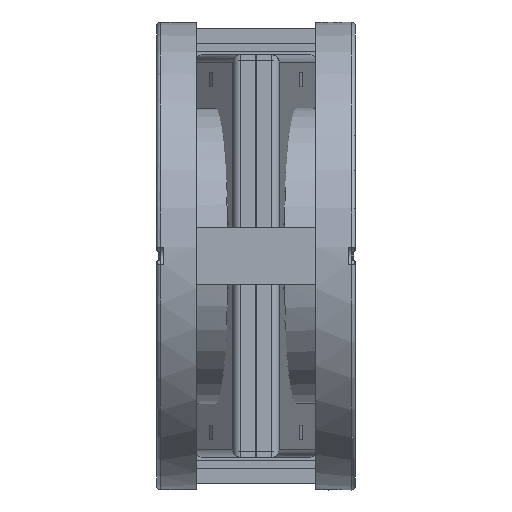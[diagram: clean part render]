
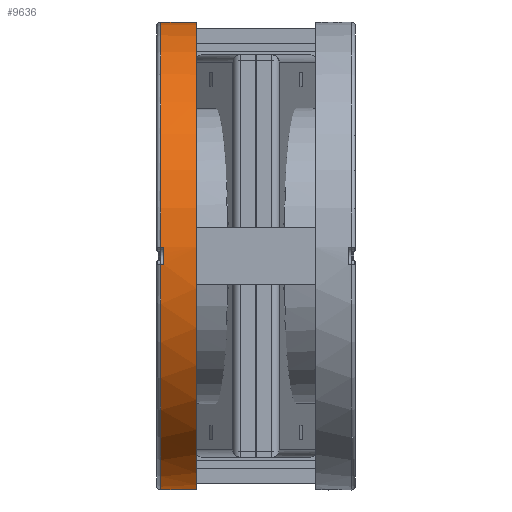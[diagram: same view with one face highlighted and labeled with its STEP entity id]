
A CAD part, front view. The second image highlights one B-rep face of the part: STEP entity #9636.
In plain terms, the highlighted cylindrical face has radius 82.4 mm (diameter 164.8 mm), a full revolution.
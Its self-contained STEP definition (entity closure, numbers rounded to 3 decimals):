
#3245=ELLIPSE('',#25306,82.715,82.4);
#4468=CYLINDRICAL_SURFACE('',#25307,82.4);
#6889=LINE('',#53155,#8507);
#6890=LINE('',#53160,#8508);
#6891=LINE('',#53164,#8509);
#6892=LINE('',#53168,#8510);
#8507=VECTOR('',#29844,1.);
#8508=VECTOR('',#29847,1.);
#8509=VECTOR('',#29850,1.);
#8510=VECTOR('',#29853,1.);
#9636=ADVANCED_FACE('',(#10775,#10776),#4468,.T.);
#10775=FACE_BOUND('',#12187,.T.);
#10776=FACE_BOUND('',#12188,.T.);
#12187=EDGE_LOOP('',(#17366,#17367,#17368,#17369,#17370,#17371,#17372,#17373));
#12188=EDGE_LOOP('',(#17374,#17375));
#17366=ORIENTED_EDGE('',*,*,#22740,.T.);
#17367=ORIENTED_EDGE('',*,*,#22741,.T.);
#17368=ORIENTED_EDGE('',*,*,#22742,.F.);
#17369=ORIENTED_EDGE('',*,*,#22743,.F.);
#17370=ORIENTED_EDGE('',*,*,#22744,.T.);
#17371=ORIENTED_EDGE('',*,*,#22745,.T.);
#17372=ORIENTED_EDGE('',*,*,#22746,.F.);
#17373=ORIENTED_EDGE('',*,*,#22747,.T.);
#17374=ORIENTED_EDGE('',*,*,#22748,.F.);
#17375=ORIENTED_EDGE('',*,*,#22739,.T.);
#19973=VERTEX_POINT('',#53151);
#19974=VERTEX_POINT('',#53152);
#19975=VERTEX_POINT('',#53156);
#19976=VERTEX_POINT('',#53157);
#19977=VERTEX_POINT('',#53159);
#19978=VERTEX_POINT('',#53161);
#19979=VERTEX_POINT('',#53163);
#19980=VERTEX_POINT('',#53165);
#19981=VERTEX_POINT('',#53167);
#19982=VERTEX_POINT('',#53169);
#22739=EDGE_CURVE('',#19974,#19973,#23808,.T.);
#22740=EDGE_CURVE('',#19975,#19976,#6889,.T.);
#22741=EDGE_CURVE('',#19976,#19977,#23809,.T.);
#22742=EDGE_CURVE('',#19978,#19977,#6890,.T.);
#22743=EDGE_CURVE('',#19979,#19978,#23810,.T.);
#22744=EDGE_CURVE('',#19979,#19980,#6891,.T.);
#22745=EDGE_CURVE('',#19980,#19981,#23811,.T.);
#22746=EDGE_CURVE('',#19982,#19981,#6892,.T.);
#22747=EDGE_CURVE('',#19982,#19975,#23812,.T.);
#22748=EDGE_CURVE('',#19974,#19973,#3245,.T.);
#23808=CIRCLE('',#25300,82.4);
#23809=CIRCLE('',#25302,82.4);
#23810=CIRCLE('',#25303,82.4);
#23811=CIRCLE('',#25304,82.4);
#23812=CIRCLE('',#25305,82.4);
#25300=AXIS2_PLACEMENT_3D('',#53153,#29840,#29841);
#25302=AXIS2_PLACEMENT_3D('',#53158,#29845,#29846);
#25303=AXIS2_PLACEMENT_3D('',#53162,#29848,#29849);
#25304=AXIS2_PLACEMENT_3D('',#53166,#29851,#29852);
#25305=AXIS2_PLACEMENT_3D('',#53170,#29854,#29855);
#25306=AXIS2_PLACEMENT_3D('',#53171,#29856,#29857);
#25307=AXIS2_PLACEMENT_3D('',#53172,#29858,#29859);
#29840=DIRECTION('',(0.,1.,0.));
#29841=DIRECTION('',(-1.,0.,0.));
#29844=DIRECTION('',(0.,1.,0.));
#29845=DIRECTION('',(0.,-1.,0.));
#29846=DIRECTION('',(1.,0.,0.));
#29847=DIRECTION('',(0.,1.,0.));
#29848=DIRECTION('',(0.,1.,0.));
#29849=DIRECTION('',(-1.,0.,0.));
#29850=DIRECTION('',(0.,1.,0.));
#29851=DIRECTION('',(0.,-1.,0.));
#29852=DIRECTION('',(1.,0.,0.));
#29853=DIRECTION('',(0.,1.,0.));
#29854=DIRECTION('',(0.,-1.,0.));
#29855=DIRECTION('',(-1.,0.,0.));
#29856=DIRECTION('',(0.087,-0.996,0.));
#29857=DIRECTION('',(0.996,0.087,0.));
#29858=DIRECTION('',(0.,1.,0.));
#29859=DIRECTION('',(-1.,0.,0.));
#53151=CARTESIAN_POINT('',(76.47,0.,30.692));
#53152=CARTESIAN_POINT('',(76.47,0.,-30.692));
#53153=CARTESIAN_POINT('',(0.,0.,
0.));
#53155=CARTESIAN_POINT('',(82.345,11.5,3.));
#53156=CARTESIAN_POINT('',(82.345,11.5,3.));
#53157=CARTESIAN_POINT('',(82.345,12.5,3.));
#53158=CARTESIAN_POINT('',(0.,12.5,0.));
#53159=CARTESIAN_POINT('',(-82.345,12.5,3.));
#53160=CARTESIAN_POINT('',(-82.345,11.5,3.));
#53161=CARTESIAN_POINT('',(-82.345,11.5,3.));
#53162=CARTESIAN_POINT('',(0.,11.5,0.));
#53163=CARTESIAN_POINT('',(-82.345,11.5,-3.));
#53164=CARTESIAN_POINT('',(-82.345,11.5,-3.));
#53165=CARTESIAN_POINT('',(-82.345,12.5,-3.));
#53166=CARTESIAN_POINT('',(0.,12.5,0.));
#53167=CARTESIAN_POINT('',(82.345,12.5,-3.));
#53168=CARTESIAN_POINT('',(82.345,11.5,-3.));
#53169=CARTESIAN_POINT('',(82.345,11.5,-3.));
#53170=CARTESIAN_POINT('',(0.,11.5,0.));
#53171=CARTESIAN_POINT('',(0.,-6.69,0.));
#53172=CARTESIAN_POINT('',(0.,14.,0.));
